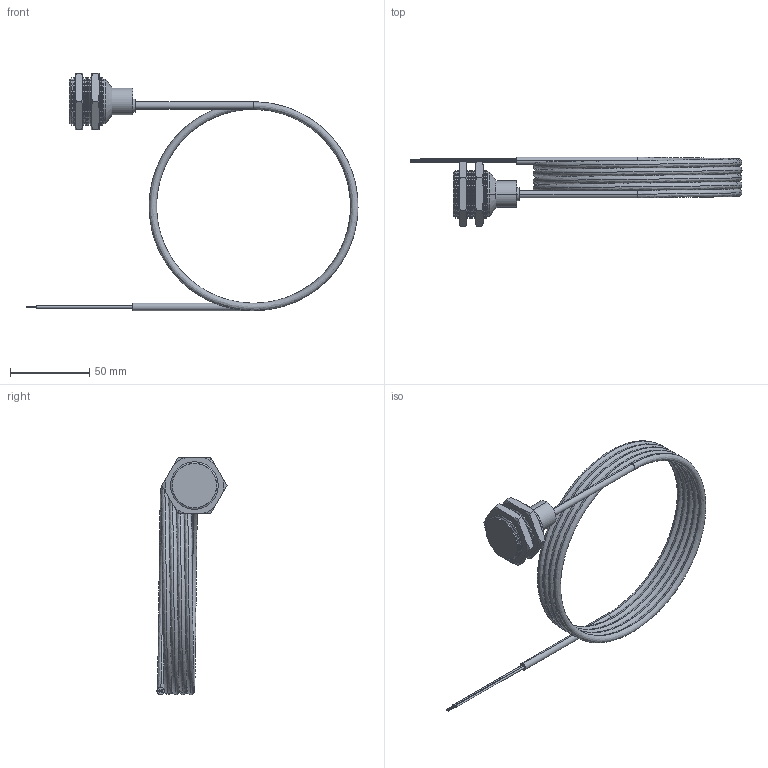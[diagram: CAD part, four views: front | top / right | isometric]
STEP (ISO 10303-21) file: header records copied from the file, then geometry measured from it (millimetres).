
FILE_DESCRIPTION (( 'STEP AP203' ), '1' );
FILE_NAME ('90-XXXX-028.STEP', '2015-10-28T13:20:06', ( 'Sam' ), ( 'Spade' ), 'SwSTEP 2.0', 'SolidWorks 2002296', '' );
FILE_SCHEMA (( 'CONFIG_CONTROL_DESIGN' ));
Length unit declared in the file: inch
Products named in the file (14): Imported275; Imported277; Imported278; Imported283; Imported272; Imported274; Imported273; Imported282; Imported281; Imported280; 90-XXXX-028; Imported276; 49-9060; Imported279
Assembly tree (13 placements, depth 2):
  90-XXXX-028
    Imported279
    Imported277
    49-9060
    Imported272
    Imported278
    Imported274
    Imported275
    Imported282
    Imported276
    Imported283
    Imported281
    Imported273
    Imported280
Bounding box: 209.35 x 44.19 x 149.71 mm (x, y, z)
Volume: 58175.2 mm3; surface area: 43203.2 mm2
Topology: 13 solids, 13 shells, 265 faces, 548 edges, 322 vertices
Faces by surface type: cone 100, cylinder 62, bspline 52, plane 51
Entity records: 10844 total; most frequent: CARTESIAN_POINT 3891, DIRECTION 1188, ORIENTED_EDGE 1096, EDGE_CURVE 548, AXIS2_PLACEMENT_3D 495, VERTEX_POINT 322, EDGE_LOOP 284, CIRCLE 266
